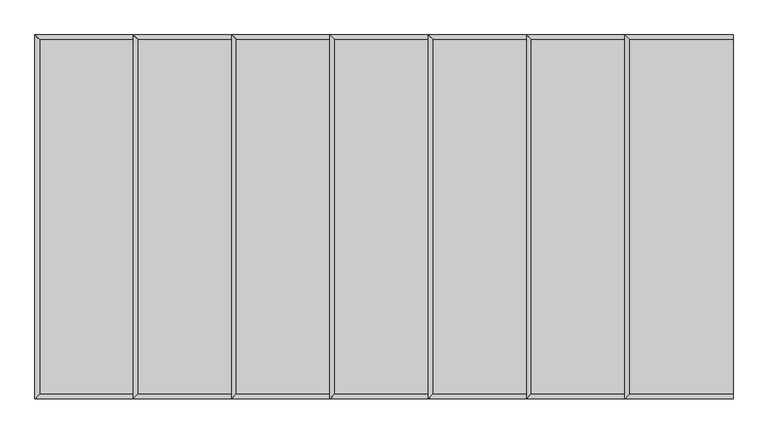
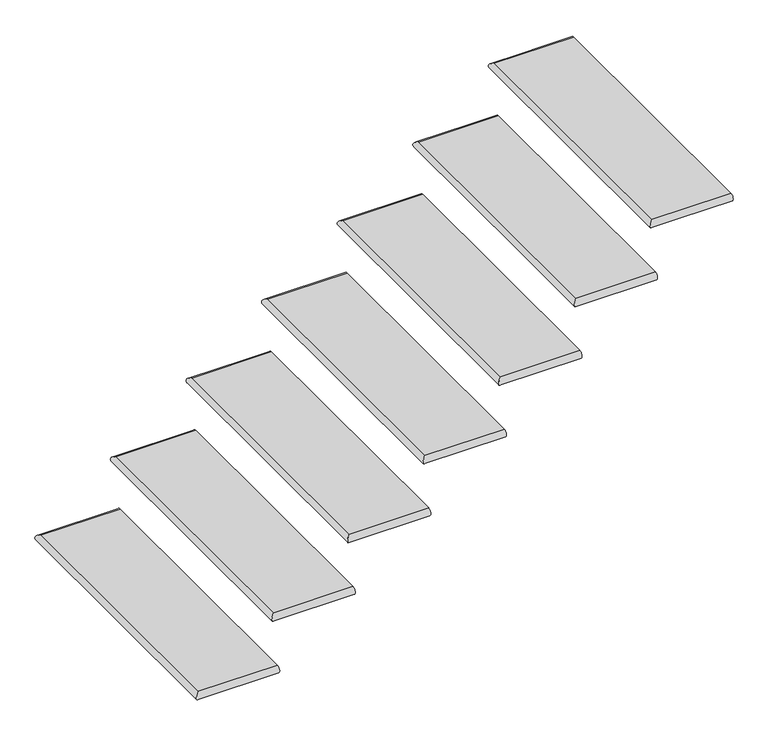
"""IFC4 building model written with IfcOpenShell, lengths in millimetres: stair flight geometry."""

from ifc_helpers import new_model, si_unit, frame, origin, place, context, project, spatial, circle_curve, ellipse_curve, source, transform, mapped, element, save
from ifc_brep_helpers import plane_surface, cylinder_surface, advanced_brep


def stair_flight_d1c61a72(model_context):
    return source(origin(), model_context, "Body", "AdvancedBrep", [
        advanced_brep(
        [(-17769.3481446, -8236.0871906, 165.1), (-17769.3481446, -8236.0871906, 190.5), (-17769.3481446, -7321.6871906, 190.5), (-17769.3481446, -7321.6871906, 165.1), (-17502.6481446, -8236.0871906, 190.5), (-17502.6481446, -7321.6871906, 190.5), (-17502.6481446, -7321.6871906, 165.1), (-17502.6481446, -8236.0871906, 165.1)],
        [
            (0, 1, ellipse_curve(frame((-17769.3481446, -8236.0871906, 177.8), z_axis=(-0.7071067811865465, 0.7071067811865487, 0.0), x_axis=(-0.7071067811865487, -0.7071067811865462, 0.0)), 17.9605122, 12.7)),
            (1, 2),
            (2, 3, ellipse_curve(frame((-17769.3481446, -7321.6871906, 177.8), z_axis=(-0.7071067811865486, -0.7071067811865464, 0.0), x_axis=(0.7071067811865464, -0.7071067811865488, 0.0)), 17.9605122, 12.7)),
            (3, 0),
            (4, 5),
            (5, 2),
            (1, 4),
            (6, 7),
            (7, 0),
            (3, 6),
            (4, 7, circle_curve(frame((-17502.6481446, -8236.0871906, 177.8), z_axis=(1.0, 0.0, 0.0), x_axis=(0.0, 1.0, 0.0)), 12.7)),
            (6, 5, circle_curve(frame((-17502.6481446, -7321.6871906, 177.8), z_axis=(1.0, 0.0, 0.0), x_axis=(0.0, -1.0, 0.0)), 12.7)),
        ],
        [
            cylinder_surface(frame((-17769.3481446, -8236.0871906, 177.8), z_axis=(0.0, -1.0, 0.0), x_axis=(1.0, 0.0, 0.0)), 12.7),
            plane_surface(frame((-17782.0481446, -7321.6871906, 190.5), z_axis=(0.0, 0.0, 1.0), x_axis=(-1.0, 0.0, 0.0))),
            plane_surface(frame((-17782.0481446, -7321.6871906, 165.1), z_axis=(0.0, 0.0, -1.0), x_axis=(1.0, 0.0, 0.0))),
            plane_surface(frame((-17502.6481446, -8236.0871906, 190.5), z_axis=(1.0, 0.0, 0.0), x_axis=(0.0, 0.0, -1.0))),
            cylinder_surface(frame((-17502.6481446, -8236.0871906, 177.8), z_axis=(1.0, 0.0, 0.0), x_axis=(0.0, 1.0, 0.0)), 12.7),
            cylinder_surface(frame((-17769.3481446, -7321.6871906, 177.8), z_axis=(-1.0, 0.0, 0.0), x_axis=(0.0, -1.0, 0.0)), 12.7),
        ],
        [
            (0, [[1, 2, 3, 4]]),
            (1, [[5, 6, -2, 7]]),
            (2, [[8, 9, -4, 10]]),
            (3, [[-5, 11, -8, 12]]),
            (4, [[-11, -7, -1, -9]]),
            (5, [[-3, -6, -12, -10]]),
        ],
    ),
        advanced_brep(
        [(-15978.6481446, -8236.0871906, 1333.5), (-15978.6481446, -7321.6871906, 1333.5), (-16245.3481446, -7321.6871906, 1333.5), (-16245.3481446, -8236.0871906, 1333.5), (-16004.0481446, -8236.0871906, 1333.5), (-15978.6481446, -7321.6871906, 1308.1), (-15978.6481446, -8236.0871906, 1308.1), (-16004.0481446, -8236.0871906, 1308.1), (-16245.3481446, -8236.0871906, 1308.1), (-16245.3481446, -7321.6871906, 1308.1)],
        [
            (0, 1),
            (1, 2),
            (2, 3),
            (3, 4),
            (4, 0),
            (5, 6),
            (6, 7),
            (7, 8),
            (8, 9),
            (9, 5),
            (0, 6, circle_curve(frame((-15978.6481446, -8236.0871906, 1320.8), z_axis=(1.0, 0.0, 0.0), x_axis=(0.0, 1.0, 0.0)), 12.7)),
            (5, 1, circle_curve(frame((-15978.6481446, -7321.6871906, 1320.8), z_axis=(1.0, 0.0, 0.0), x_axis=(0.0, -1.0, 0.0)), 12.7)),
            (8, 3, ellipse_curve(frame((-16245.3481446, -8236.0871906, 1320.8), z_axis=(-0.7071067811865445, 0.7071067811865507, 0.0), x_axis=(-0.7071067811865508, -0.7071067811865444, 0.0)), 17.9605122, 12.7)),
            (2, 9, ellipse_curve(frame((-16245.3481446, -7321.6871906, 1320.8), z_axis=(-0.70710678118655, -0.7071067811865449, 0.0), x_axis=(0.7071067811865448, -0.7071067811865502, 0.0)), 17.9605122, 12.7)),
        ],
        [
            plane_surface(frame((-17782.0481446, -7321.6871906, 1333.5), z_axis=(0.0, 0.0, 1.0), x_axis=(-1.0, 0.0, 0.0))),
            plane_surface(frame((-17782.0481446, -7321.6871906, 1308.1), z_axis=(0.0, 0.0, -1.0), x_axis=(1.0, 0.0, 0.0))),
            plane_surface(frame((-15978.6481446, -8236.0871906, 1333.5), z_axis=(1.0, 0.0, 0.0), x_axis=(0.0, 0.0, -1.0))),
            cylinder_surface(frame((-16245.3481446, -8236.0871906, 1320.8), z_axis=(0.0, -1.0, 0.0), x_axis=(1.0, 0.0, 0.0)), 12.7),
            cylinder_surface(frame((-15978.6481446, -8236.0871906, 1320.8), z_axis=(1.0, 0.0, 0.0), x_axis=(0.0, 1.0, 0.0)), 12.7),
            cylinder_surface(frame((-16245.3481446, -7321.6871906, 1320.8), z_axis=(-1.0, 0.0, 0.0), x_axis=(0.0, -1.0, 0.0)), 12.7),
        ],
        [
            (0, [[1, 2, 3, 4, 5]]),
            (1, [[6, 7, 8, 9, 10]]),
            (2, [[-1, 11, -6, 12]]),
            (3, [[13, -3, 14, -9]]),
            (4, [[-11, -5, -4, -13, -8, -7]]),
            (5, [[-14, -2, -12, -10]]),
        ],
    ),
        advanced_brep(
        [(-17248.6481446, -8236.0871906, 381.0), (-17248.6481446, -7321.6871906, 381.0), (-17515.3481446, -7321.6871906, 381.0), (-17515.3481446, -8236.0871906, 381.0), (-17248.6481446, -7321.6871906, 355.6), (-17248.6481446, -8236.0871906, 355.6), (-17515.3481446, -8236.0871906, 355.6), (-17515.3481446, -7321.6871906, 355.6)],
        [
            (0, 1),
            (1, 2),
            (2, 3),
            (3, 0),
            (4, 5),
            (5, 6),
            (6, 7),
            (7, 4),
            (0, 5, circle_curve(frame((-17248.6481446, -8236.0871906, 368.3), z_axis=(1.0, 0.0, 0.0), x_axis=(0.0, 1.0, 0.0)), 12.7)),
            (4, 1, circle_curve(frame((-17248.6481446, -7321.6871906, 368.3), z_axis=(1.0, 0.0, 0.0), x_axis=(0.0, -1.0, 0.0)), 12.7)),
            (3, 6, ellipse_curve(frame((-17515.3481446, -8236.0871906, 368.3), z_axis=(0.7071067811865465, -0.7071067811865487, 0.0), x_axis=(0.7071067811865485, 0.7071067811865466, 0.0)), 17.9605122, 12.7)),
            (2, 7, ellipse_curve(frame((-17515.3481446, -7321.6871906, 368.3), z_axis=(-0.7071067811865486, -0.7071067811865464, 0.0), x_axis=(0.7071067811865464, -0.7071067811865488, 0.0)), 17.9605122, 12.7)),
        ],
        [
            plane_surface(frame((-17528.0481446, -7321.6871906, 381.0), z_axis=(0.0, 0.0, 1.0), x_axis=(-1.0, 0.0, 0.0))),
            plane_surface(frame((-17528.0481446, -7321.6871906, 355.6), z_axis=(0.0, 0.0, -1.0), x_axis=(1.0, 0.0, 0.0))),
            plane_surface(frame((-17248.6481446, -8236.0871906, 381.0), z_axis=(1.0, 0.0, 0.0), x_axis=(0.0, 0.0, -1.0))),
            cylinder_surface(frame((-17248.6481446, -8236.0871906, 368.3), z_axis=(1.0, 0.0, 0.0), x_axis=(0.0, 1.0, 0.0)), 12.7),
            cylinder_surface(frame((-17515.3481446, -8236.0871906, 368.3), z_axis=(0.0, -1.0, 0.0), x_axis=(1.0, 0.0, 0.0)), 12.7),
            cylinder_surface(frame((-17515.3481446, -7321.6871906, 368.3), z_axis=(-1.0, 0.0, 0.0), x_axis=(0.0, -1.0, 0.0)), 12.7),
        ],
        [
            (0, [[1, 2, 3, 4]]),
            (1, [[5, 6, 7, 8]]),
            (2, [[-1, 9, -5, 10]]),
            (3, [[-9, -4, 11, -6]]),
            (4, [[-11, -3, 12, -7]]),
            (5, [[-12, -2, -10, -8]]),
        ],
    ),
        advanced_brep(
        [(-16994.6481446, -8236.0871906, 571.5), (-16994.6481446, -7321.6871906, 571.5), (-17261.3481446, -7321.6871906, 571.5), (-17261.3481446, -8236.0871906, 571.5), (-16994.6481446, -7321.6871906, 546.1), (-16994.6481446, -8236.0871906, 546.1), (-17261.3481446, -8236.0871906, 546.1), (-17261.3481446, -7321.6871906, 546.1)],
        [
            (0, 1),
            (1, 2),
            (2, 3),
            (3, 0),
            (4, 5),
            (5, 6),
            (6, 7),
            (7, 4),
            (0, 5, circle_curve(frame((-16994.6481446, -8236.0871906, 558.8), z_axis=(1.0, 0.0, 0.0), x_axis=(0.0, 1.0, 0.0)), 12.7)),
            (4, 1, circle_curve(frame((-16994.6481446, -7321.6871906, 558.8), z_axis=(1.0, 0.0, 0.0), x_axis=(0.0, -1.0, 0.0)), 12.7)),
            (3, 6, ellipse_curve(frame((-17261.3481446, -8236.0871906, 558.8), z_axis=(0.7071067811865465, -0.7071067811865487, 0.0), x_axis=(0.7071067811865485, 0.7071067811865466, 0.0)), 17.9605122, 12.7)),
            (2, 7, ellipse_curve(frame((-17261.3481446, -7321.6871906, 558.8), z_axis=(-0.7071067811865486, -0.7071067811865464, 0.0), x_axis=(0.7071067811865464, -0.7071067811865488, 0.0)), 17.9605122, 12.7)),
        ],
        [
            plane_surface(frame((-17274.0481446, -7321.6871906, 571.5), z_axis=(0.0, 0.0, 1.0), x_axis=(-1.0, 0.0, 0.0))),
            plane_surface(frame((-17274.0481446, -7321.6871906, 546.1), z_axis=(0.0, 0.0, -1.0), x_axis=(1.0, 0.0, 0.0))),
            plane_surface(frame((-16994.6481446, -8236.0871906, 571.5), z_axis=(1.0, 0.0, 0.0), x_axis=(0.0, 0.0, -1.0))),
            cylinder_surface(frame((-16994.6481446, -8236.0871906, 558.8), z_axis=(1.0, 0.0, 0.0), x_axis=(0.0, 1.0, 0.0)), 12.7),
            cylinder_surface(frame((-17261.3481446, -8236.0871906, 558.8), z_axis=(0.0, -1.0, 0.0), x_axis=(1.0, 0.0, 0.0)), 12.7),
            cylinder_surface(frame((-17261.3481446, -7321.6871906, 558.8), z_axis=(-1.0, 0.0, 0.0), x_axis=(0.0, -1.0, 0.0)), 12.7),
        ],
        [
            (0, [[1, 2, 3, 4]]),
            (1, [[5, 6, 7, 8]]),
            (2, [[-1, 9, -5, 10]]),
            (3, [[-9, -4, 11, -6]]),
            (4, [[-11, -3, 12, -7]]),
            (5, [[-12, -2, -10, -8]]),
        ],
    ),
        advanced_brep(
        [(-16740.6481446, -8236.0871906, 762.0), (-16740.6481446, -7321.6871906, 762.0), (-17007.3481446, -7321.6871906, 762.0), (-17007.3481446, -8236.0871906, 762.0), (-16740.6481446, -7321.6871906, 736.6), (-16740.6481446, -8236.0871906, 736.6), (-17007.3481446, -8236.0871906, 736.6), (-17007.3481446, -7321.6871906, 736.6)],
        [
            (0, 1),
            (1, 2),
            (2, 3),
            (3, 0),
            (4, 5),
            (5, 6),
            (6, 7),
            (7, 4),
            (0, 5, circle_curve(frame((-16740.6481446, -8236.0871906, 749.3), z_axis=(1.0, 0.0, 0.0), x_axis=(0.0, 1.0, 0.0)), 12.7)),
            (4, 1, circle_curve(frame((-16740.6481446, -7321.6871906, 749.3), z_axis=(1.0, 0.0, 0.0), x_axis=(0.0, -1.0, 0.0)), 12.7)),
            (3, 6, ellipse_curve(frame((-17007.3481446, -8236.0871906, 749.3), z_axis=(0.7071067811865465, -0.7071067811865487, 0.0), x_axis=(0.7071067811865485, 0.7071067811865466, 0.0)), 17.9605122, 12.7)),
            (2, 7, ellipse_curve(frame((-17007.3481446, -7321.6871906, 749.3), z_axis=(-0.7071067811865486, -0.7071067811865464, 0.0), x_axis=(0.7071067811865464, -0.7071067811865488, 0.0)), 17.9605122, 12.7)),
        ],
        [
            plane_surface(frame((-17020.0481446, -7321.6871906, 762.0), z_axis=(0.0, 0.0, 1.0), x_axis=(-1.0, 0.0, 0.0))),
            plane_surface(frame((-17020.0481446, -7321.6871906, 736.6), z_axis=(0.0, 0.0, -1.0), x_axis=(1.0, 0.0, 0.0))),
            plane_surface(frame((-16740.6481446, -8236.0871906, 762.0), z_axis=(1.0, 0.0, 0.0), x_axis=(0.0, 0.0, -1.0))),
            cylinder_surface(frame((-16740.6481446, -8236.0871906, 749.3), z_axis=(1.0, 0.0, 0.0), x_axis=(0.0, 1.0, 0.0)), 12.7),
            cylinder_surface(frame((-17007.3481446, -8236.0871906, 749.3), z_axis=(0.0, -1.0, 0.0), x_axis=(1.0, 0.0, 0.0)), 12.7),
            cylinder_surface(frame((-17007.3481446, -7321.6871906, 749.3), z_axis=(-1.0, 0.0, 0.0), x_axis=(0.0, -1.0, 0.0)), 12.7),
        ],
        [
            (0, [[1, 2, 3, 4]]),
            (1, [[5, 6, 7, 8]]),
            (2, [[-1, 9, -5, 10]]),
            (3, [[-9, -4, 11, -6]]),
            (4, [[-11, -3, 12, -7]]),
            (5, [[-12, -2, -10, -8]]),
        ],
    ),
        advanced_brep(
        [(-16486.6481446, -8236.0871906, 952.5), (-16486.6481446, -7321.6871906, 952.5), (-16753.3481446, -7321.6871906, 952.5), (-16753.3481446, -8236.0871906, 952.5), (-16486.6481446, -7321.6871906, 927.1), (-16486.6481446, -8236.0871906, 927.1), (-16753.3481446, -8236.0871906, 927.1), (-16753.3481446, -7321.6871906, 927.1)],
        [
            (0, 1),
            (1, 2),
            (2, 3),
            (3, 0),
            (4, 5),
            (5, 6),
            (6, 7),
            (7, 4),
            (0, 5, circle_curve(frame((-16486.6481446, -8236.0871906, 939.8), z_axis=(1.0, 0.0, 0.0), x_axis=(0.0, 1.0, 0.0)), 12.7)),
            (4, 1, circle_curve(frame((-16486.6481446, -7321.6871906, 939.8), z_axis=(1.0, 0.0, 0.0), x_axis=(0.0, -1.0, 0.0)), 12.7)),
            (3, 6, ellipse_curve(frame((-16753.3481446, -8236.0871906, 939.8), z_axis=(0.7071067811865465, -0.7071067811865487, 0.0), x_axis=(0.7071067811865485, 0.7071067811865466, 0.0)), 17.9605122, 12.7)),
            (2, 7, ellipse_curve(frame((-16753.3481446, -7321.6871906, 939.8), z_axis=(-0.7071067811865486, -0.7071067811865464, 0.0), x_axis=(0.7071067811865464, -0.7071067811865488, 0.0)), 17.9605122, 12.7)),
        ],
        [
            plane_surface(frame((-16766.0481446, -7321.6871906, 952.5), z_axis=(0.0, 0.0, 1.0), x_axis=(-1.0, 0.0, 0.0))),
            plane_surface(frame((-16766.0481446, -7321.6871906, 927.1), z_axis=(0.0, 0.0, -1.0), x_axis=(1.0, 0.0, 0.0))),
            plane_surface(frame((-16486.6481446, -8236.0871906, 952.5), z_axis=(1.0, 0.0, 0.0), x_axis=(0.0, 0.0, -1.0))),
            cylinder_surface(frame((-16486.6481446, -8236.0871906, 939.8), z_axis=(1.0, 0.0, 0.0), x_axis=(0.0, 1.0, 0.0)), 12.7),
            cylinder_surface(frame((-16753.3481446, -8236.0871906, 939.8), z_axis=(0.0, -1.0, 0.0), x_axis=(1.0, 0.0, 0.0)), 12.7),
            cylinder_surface(frame((-16753.3481446, -7321.6871906, 939.8), z_axis=(-1.0, 0.0, 0.0), x_axis=(0.0, -1.0, 0.0)), 12.7),
        ],
        [
            (0, [[1, 2, 3, 4]]),
            (1, [[5, 6, 7, 8]]),
            (2, [[-1, 9, -5, 10]]),
            (3, [[-9, -4, 11, -6]]),
            (4, [[-11, -3, 12, -7]]),
            (5, [[-12, -2, -10, -8]]),
        ],
    ),
        advanced_brep(
        [(-16232.6481446, -8236.0871906, 1143.0), (-16232.6481446, -7321.6871906, 1143.0), (-16499.3481446, -7321.6871906, 1143.0), (-16499.3481446, -8236.0871906, 1143.0), (-16232.6481446, -7321.6871906, 1117.6), (-16232.6481446, -8236.0871906, 1117.6), (-16499.3481446, -8236.0871906, 1117.6), (-16499.3481446, -7321.6871906, 1117.6)],
        [
            (0, 1),
            (1, 2),
            (2, 3),
            (3, 0),
            (4, 5),
            (5, 6),
            (6, 7),
            (7, 4),
            (0, 5, circle_curve(frame((-16232.6481446, -8236.0871906, 1130.3), z_axis=(1.0, 0.0, 0.0), x_axis=(0.0, 1.0, 0.0)), 12.7)),
            (4, 1, circle_curve(frame((-16232.6481446, -7321.6871906, 1130.3), z_axis=(1.0, 0.0, 0.0), x_axis=(0.0, -1.0, 0.0)), 12.7)),
            (3, 6, ellipse_curve(frame((-16499.3481446, -8236.0871906, 1130.3), z_axis=(0.7071067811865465, -0.7071067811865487, 0.0), x_axis=(0.7071067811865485, 0.7071067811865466, 0.0)), 17.9605122, 12.7)),
            (2, 7, ellipse_curve(frame((-16499.3481446, -7321.6871906, 1130.3), z_axis=(-0.7071067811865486, -0.7071067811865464, 0.0), x_axis=(0.7071067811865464, -0.7071067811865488, 0.0)), 17.9605122, 12.7)),
        ],
        [
            plane_surface(frame((-16512.0481446, -7321.6871906, 1143.0), z_axis=(0.0, 0.0, 1.0), x_axis=(-1.0, 0.0, 0.0))),
            plane_surface(frame((-16512.0481446, -7321.6871906, 1117.6), z_axis=(0.0, 0.0, -1.0), x_axis=(1.0, 0.0, 0.0))),
            plane_surface(frame((-16232.6481446, -8236.0871906, 1143.0), z_axis=(1.0, 0.0, 0.0), x_axis=(0.0, 0.0, -1.0))),
            cylinder_surface(frame((-16232.6481446, -8236.0871906, 1130.3), z_axis=(1.0, 0.0, 0.0), x_axis=(0.0, 1.0, 0.0)), 12.7),
            cylinder_surface(frame((-16499.3481446, -8236.0871906, 1130.3), z_axis=(0.0, -1.0, 0.0), x_axis=(1.0, 0.0, 0.0)), 12.7),
            cylinder_surface(frame((-16499.3481446, -7321.6871906, 1130.3), z_axis=(-1.0, 0.0, 0.0), x_axis=(0.0, -1.0, 0.0)), 12.7),
        ],
        [
            (0, [[1, 2, 3, 4]]),
            (1, [[5, 6, 7, 8]]),
            (2, [[-1, 9, -5, 10]]),
            (3, [[-9, -4, 11, -6]]),
            (4, [[-11, -3, 12, -7]]),
            (5, [[-12, -2, -10, -8]]),
        ],
    ),
    ])


if __name__ == "__main__":
    model = new_model("IFC4")
    model_context = context("Model", 3, world=origin())
    ifc_project = project(units=[si_unit("LENGTHUNIT", "METRE", prefix="MILLI")], contexts=[model_context])
    site = spatial("IfcSite", under=ifc_project)
    building = spatial("IfcBuilding", under=site)
    placement = place(None, origin())
    stair_flight_shape = stair_flight_d1c61a72(model_context)
    element("IfcStairFlight", 1, ObjectType="Unassigned Steps with 1\" Tread 1\" Nosing", at=placement, inside=building, context=model_context, shape_type="MappedRepresentation", body=[
        mapped(stair_flight_shape, transform((0.0, 0.0, 0.0), x_axis=(1.0, 0.0, 0.0), y_axis=(0.0, 1.0, 0.0), z_axis=(0.0, 0.0, 1.0))),
    ])
    save(model, "model.ifc")
